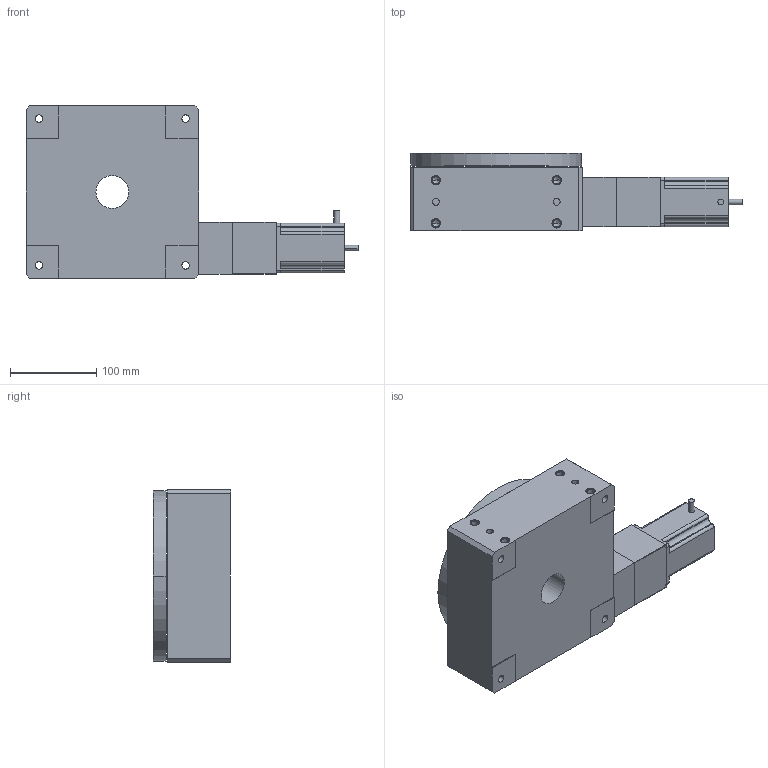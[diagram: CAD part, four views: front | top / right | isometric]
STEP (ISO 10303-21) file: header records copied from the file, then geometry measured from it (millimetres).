
FILE_DESCRIPTION((''),'2;1');
FILE_NAME('R200M7MP3E0_ASM','2009-07-02T',('FK20128'),(''),'PRO/ENGINEER BY PARAMETRIC TECHNOLOGY CORPORATION, 2006200','PRO/ENGINEER BY PARAMETRIC TECHNOLOGY CORPORATION, 2006200','');
FILE_SCHEMA(('CONFIG_CONTROL_DESIGN'));
Length unit declared in the file: millimetre
Products named in the file (4): R200M; R200M-M22; RXXXM-HV233; R200M7MP3E0_ASM
Assembly tree (3 placements, depth 2):
  R200M7MP3E0_ASM
    R200M
    R200M-M22
    RXXXM-HV233
Bounding box: 384.86 x 90 x 200 mm (x, y, z)
Volume: 3732454.2 mm3; surface area: 291669 mm2
Topology: 4 solids, 20 shells, 296 faces, 744 edges, 482 vertices
Faces by surface type: cylinder 158, plane 96, cone 42
Entity records: 8975 total; most frequent: DIRECTION 1698, CARTESIAN_POINT 1499, ORIENTED_EDGE 1360, EDGE_CURVE 712, AXIS2_PLACEMENT_3D 681, VERTEX_POINT 482, EDGE_LOOP 392, CIRCLE 376
